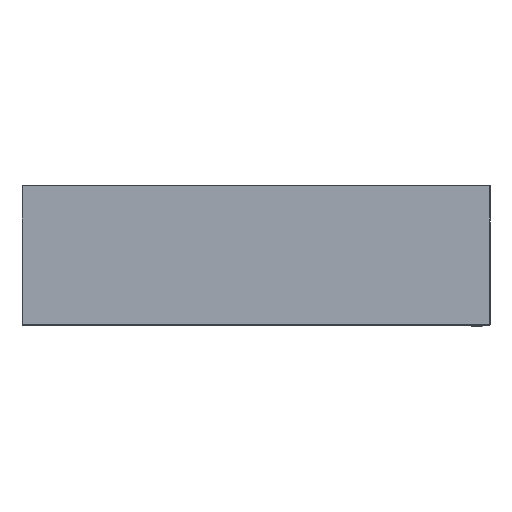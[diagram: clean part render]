
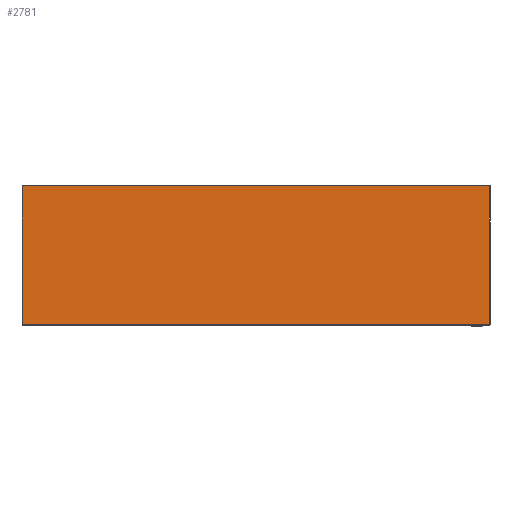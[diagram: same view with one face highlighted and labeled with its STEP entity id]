
A CAD part, top view. The second image highlights one B-rep face of the part: STEP entity #2781.
In plain terms, the highlighted planar face has unit normal (0, 0, 1).
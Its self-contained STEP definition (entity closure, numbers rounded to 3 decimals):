
#435=FACE_OUTER_BOUND('',#609,.T.);
#609=EDGE_LOOP('',(#2052,#2053,#2054,#2055));
#806=LINE('',#4268,#1049);
#825=LINE('',#4314,#1068);
#846=LINE('',#4364,#1089);
#858=LINE('',#4391,#1101);
#1049=VECTOR('',#3374,10.);
#1068=VECTOR('',#3421,10.);
#1089=VECTOR('',#3472,10.);
#1101=VECTOR('',#3508,10.);
#1291=VERTEX_POINT('',#4265);
#1292=VERTEX_POINT('',#4267);
#1305=VERTEX_POINT('',#4313);
#1319=VERTEX_POINT('',#4363);
#1535=EDGE_CURVE('',#1292,#1291,#806,.T.);
#1558=EDGE_CURVE('',#1305,#1292,#825,.T.);
#1583=EDGE_CURVE('',#1319,#1305,#846,.T.);
#1598=EDGE_CURVE('',#1319,#1291,#858,.T.);
#2052=ORIENTED_EDGE('',*,*,#1535,.T.);
#2053=ORIENTED_EDGE('',*,*,#1598,.F.);
#2054=ORIENTED_EDGE('',*,*,#1583,.T.);
#2055=ORIENTED_EDGE('',*,*,#1558,.T.);
#2664=PLANE('',#3066);
#2781=ADVANCED_FACE('',(#435),#2664,.T.);
#3066=AXIS2_PLACEMENT_3D('',#4393,#3511,#3512);
#3374=DIRECTION('',(0.,1.,0.));
#3421=DIRECTION('',(1.,0.,0.));
#3472=DIRECTION('',(0.,-1.,0.));
#3508=DIRECTION('',(1.,0.,0.));
#3511=DIRECTION('center_axis',(0.,0.,1.));
#3512=DIRECTION('ref_axis',(1.,0.,0.));
#4265=CARTESIAN_POINT('',(66.9,250.,0.8));
#4267=CARTESIAN_POINT('',(66.9,-750.4,0.8));
#4268=CARTESIAN_POINT('',(66.9,-500.7,0.8));
#4313=CARTESIAN_POINT('',(-229.9,-750.4,0.8));
#4314=CARTESIAN_POINT('',(-155.7,-750.4,0.8));
#4363=CARTESIAN_POINT('',(-229.9,250.,0.8));
#4364=CARTESIAN_POINT('',(-229.9,-0.5,0.8));
#4391=CARTESIAN_POINT('',(68.5,250.,0.8));
#4393=CARTESIAN_POINT('Origin',(-81.5,-251.,0.8));
